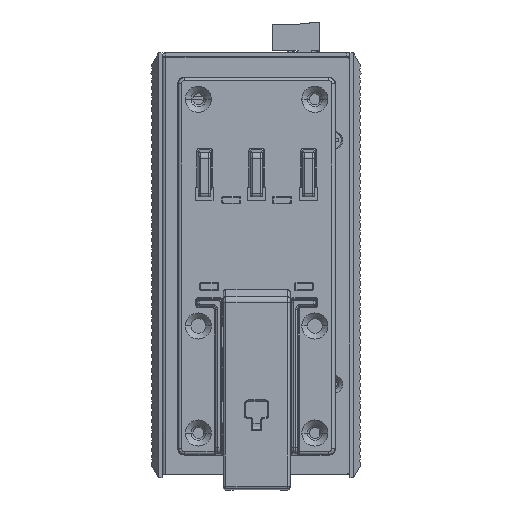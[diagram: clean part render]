
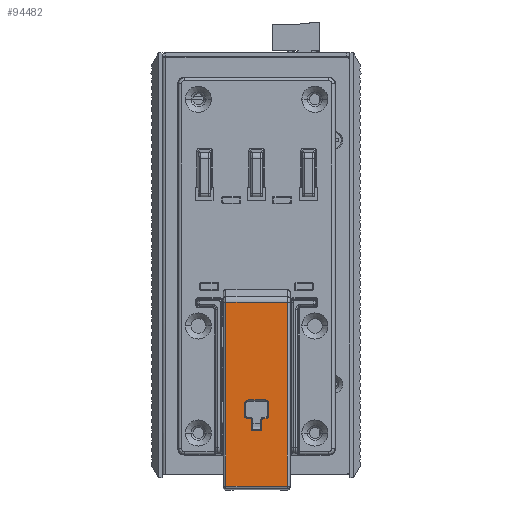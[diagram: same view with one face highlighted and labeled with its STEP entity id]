
A CAD part, left-side view. The second image highlights one B-rep face of the part: STEP entity #94482.
In plain terms, the highlighted planar face has unit normal (-1, 0, 0).
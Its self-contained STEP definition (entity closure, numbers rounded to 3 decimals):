
#88757=DIRECTION('',(0.,-1.,0.));
#88758=VECTOR('',#88757,19.5);
#88759=CARTESIAN_POINT('',(-59.,39.35,-14.857));
#88760=LINE('',#88759,#88758);
#88765=DIRECTION('',(0.,1.,0.));
#88766=VECTOR('',#88765,3.3);
#88767=CARTESIAN_POINT('',(-59.,27.95,
-55.68));
#88768=LINE('',#88767,#88766);
#88769=DIRECTION('',(0.,0.,-1.));
#88770=VECTOR('',#88769,3.354);
#88771=CARTESIAN_POINT('',(-59.,27.95,
-52.325));
#88772=LINE('',#88771,#88770);
#88773=CARTESIAN_POINT('',(-59.,27.325,
-51.7));
#88774=CARTESIAN_POINT('',(-59.,27.412,
-51.7));
#88775=CARTESIAN_POINT('',(-59.,27.572,
-51.734));
#88776=CARTESIAN_POINT('',(-59.,27.778,
-51.872));
#88777=CARTESIAN_POINT('',(-59.,27.916,
-52.078));
#88778=CARTESIAN_POINT('',(-59.,27.95,
-52.238));
#88779=CARTESIAN_POINT('',(-59.,27.95,
-52.325));
#88781=DIRECTION('',(0.,1.,0.));
#88782=VECTOR('',#88781,0.754);
#88783=CARTESIAN_POINT('',(-59.,26.571,
-51.7));
#88784=LINE('',#88783,#88782);
#88785=CARTESIAN_POINT('',(-59.,25.7,
-50.829));
#88786=CARTESIAN_POINT('',(-59.,25.7,
-50.949));
#88787=CARTESIAN_POINT('',(-59.,25.746,
-51.169));
#88788=CARTESIAN_POINT('',(-59.,25.937,
-51.46));
#88789=CARTESIAN_POINT('',(-59.,26.228,
-51.653));
#88790=CARTESIAN_POINT('',(-59.,26.45,
-51.7));
#88791=CARTESIAN_POINT('',(-59.,26.571,
-51.7));
#88793=DIRECTION('',(0.,0.,-1.));
#88794=VECTOR('',#88793,3.559);
#88795=CARTESIAN_POINT('',(-59.,25.7,
-47.27));
#88796=LINE('',#88795,#88794);
#88797=CARTESIAN_POINT('',(-59.,27.07,
-45.9));
#88798=CARTESIAN_POINT('',(-59.,26.879,
-45.9));
#88799=CARTESIAN_POINT('',(-59.,26.53,
-45.973));
#88800=CARTESIAN_POINT('',(-59.,26.073,
-46.277));
#88801=CARTESIAN_POINT('',(-59.,25.772,
-46.735));
#88802=CARTESIAN_POINT('',(-59.,25.7,
-47.081));
#88803=CARTESIAN_POINT('',(-59.,25.7,
-47.27));
#88805=DIRECTION('',(0.,-1.,0.));
#88806=VECTOR('',#88805,5.061);
#88807=CARTESIAN_POINT('',(-59.,32.13,
-45.9));
#88808=LINE('',#88807,#88806);
#88809=CARTESIAN_POINT('',(-59.,33.5,
-47.27));
#88810=CARTESIAN_POINT('',(-59.,33.5,
-47.081));
#88811=CARTESIAN_POINT('',(-59.,33.428,
-46.735));
#88812=CARTESIAN_POINT('',(-59.,33.127,
-46.277));
#88813=CARTESIAN_POINT('',(-59.,32.67,
-45.973));
#88814=CARTESIAN_POINT('',(-59.,32.321,
-45.9));
#88815=CARTESIAN_POINT('',(-59.,32.13,
-45.9));
#88817=DIRECTION('',(0.,0.,1.));
#88818=VECTOR('',#88817,3.559);
#88819=CARTESIAN_POINT('',(-59.,33.5,
-50.829));
#88820=LINE('',#88819,#88818);
#88821=CARTESIAN_POINT('',(-59.,32.629,
-51.7));
#88822=CARTESIAN_POINT('',(-59.,32.749,
-51.7));
#88823=CARTESIAN_POINT('',(-59.,32.969,
-51.654));
#88824=CARTESIAN_POINT('',(-59.,33.26,
-51.463));
#88825=CARTESIAN_POINT('',(-59.,33.453,
-51.172));
#88826=CARTESIAN_POINT('',(-59.,33.5,
-50.95));
#88827=CARTESIAN_POINT('',(-59.,33.5,
-50.829));
#88829=DIRECTION('',(0.,1.,0.));
#88830=VECTOR('',#88829,0.754);
#88831=CARTESIAN_POINT('',(-59.,31.875,
-51.7));
#88832=LINE('',#88831,#88830);
#88833=CARTESIAN_POINT('',(-59.,31.25,
-52.325));
#88834=CARTESIAN_POINT('',(-59.,31.25,
-52.238));
#88835=CARTESIAN_POINT('',(-59.,31.284,
-52.078));
#88836=CARTESIAN_POINT('',(-59.,31.421,
-51.872));
#88837=CARTESIAN_POINT('',(-59.,31.627,
-51.735));
#88838=CARTESIAN_POINT('',(-59.,31.787,
-51.7));
#88839=CARTESIAN_POINT('',(-59.,31.875,
-51.7));
#88841=DIRECTION('',(0.,0.,1.));
#88842=VECTOR('',#88841,3.354);
#88843=CARTESIAN_POINT('',(-59.,31.25,
-55.68));
#88844=LINE('',#88843,#88842);
#88849=DIRECTION('',(0.,0.,-1.));
#88850=VECTOR('',#88849,58.422);
#88851=CARTESIAN_POINT('',(-59.,19.85,-14.857));
#88852=LINE('',#88851,#88850);
#88868=DIRECTION('',(0.,1.,0.));
#88869=VECTOR('',#88868,19.5);
#88870=CARTESIAN_POINT('',(-59.,19.85,-73.279));
#88871=LINE('',#88870,#88869);
#88997=DIRECTION('',(0.,0.,1.));
#88998=VECTOR('',#88997,58.422);
#88999=CARTESIAN_POINT('',(-59.,39.35,-73.279));
#89000=LINE('',#88999,#88998);
#90606=CARTESIAN_POINT('',(-59.,19.85,-14.857));
#90607=VERTEX_POINT('',#90606);
#90614=CARTESIAN_POINT('',(-59.,19.85,-73.279));
#90615=VERTEX_POINT('',#90614);
#90624=CARTESIAN_POINT('',(-59.,39.35,-14.857));
#90625=VERTEX_POINT('',#90624);
#90630=CARTESIAN_POINT('',(-59.,39.35,-73.279));
#90631=VERTEX_POINT('',#90630);
#90646=CARTESIAN_POINT('',(-59.,27.95,
-55.68));
#90647=CARTESIAN_POINT('',(-59.,31.25,
-55.68));
#90648=VERTEX_POINT('',#90646);
#90649=VERTEX_POINT('',#90647);
#90660=CARTESIAN_POINT('',(-59.,31.25,
-52.325));
#90661=VERTEX_POINT('',#90660);
#90662=CARTESIAN_POINT('',(-59.,27.95,
-52.325));
#90663=VERTEX_POINT('',#90662);
#90678=VERTEX_POINT('',#88839);
#90679=VERTEX_POINT('',#88773);
#90695=CARTESIAN_POINT('',(-59.,32.629,
-51.7));
#90696=VERTEX_POINT('',#90695);
#90699=CARTESIAN_POINT('',(-59.,26.571,
-51.7));
#90700=VERTEX_POINT('',#90699);
#90707=VERTEX_POINT('',#88827);
#90710=VERTEX_POINT('',#88785);
#90718=CARTESIAN_POINT('',(-59.,33.5,
-47.27));
#90719=VERTEX_POINT('',#90718);
#90722=CARTESIAN_POINT('',(-59.,25.7,
-47.27));
#90723=VERTEX_POINT('',#90722);
#90735=VERTEX_POINT('',#88815);
#90740=VERTEX_POINT('',#88797);
#94438=CARTESIAN_POINT('',(-59.,18.95,-74.5));
#94439=DIRECTION('',(-1.,0.,0.));
#94440=DIRECTION('',(0.,0.,1.));
#94441=AXIS2_PLACEMENT_3D('',#94438,#94439,#94440);
#94442=PLANE('',#94441);
#94444=ORIENTED_EDGE('',*,*,#94443,.T.);
#94446=ORIENTED_EDGE('',*,*,#94445,.T.);
#94448=ORIENTED_EDGE('',*,*,#94447,.T.);
#94449=ORIENTED_EDGE('',*,*,#94428,.T.);
#94450=EDGE_LOOP('',(#94444,#94446,#94448,#94449));
#94451=FACE_OUTER_BOUND('',#94450,.F.);
#94453=ORIENTED_EDGE('',*,*,#94452,.F.);
#94455=ORIENTED_EDGE('',*,*,#94454,.F.);
#94457=ORIENTED_EDGE('',*,*,#94456,.F.);
#94459=ORIENTED_EDGE('',*,*,#94458,.F.);
#94461=ORIENTED_EDGE('',*,*,#94460,.F.);
#94463=ORIENTED_EDGE('',*,*,#94462,.F.);
#94465=ORIENTED_EDGE('',*,*,#94464,.F.);
#94467=ORIENTED_EDGE('',*,*,#94466,.F.);
#94469=ORIENTED_EDGE('',*,*,#94468,.F.);
#94471=ORIENTED_EDGE('',*,*,#94470,.F.);
#94473=ORIENTED_EDGE('',*,*,#94472,.F.);
#94475=ORIENTED_EDGE('',*,*,#94474,.F.);
#94477=ORIENTED_EDGE('',*,*,#94476,.F.);
#94479=ORIENTED_EDGE('',*,*,#94478,.F.);
#94480=EDGE_LOOP('',(#94453,#94455,#94457,#94459,#94461,#94463,#94465,#94467,
#94469,#94471,#94473,#94475,#94477,#94479));
#94481=FACE_BOUND('',#94480,.F.);
#94482=ADVANCED_FACE('',(#94451,#94481),#94442,.T.);
#88780=B_SPLINE_CURVE_WITH_KNOTS('',3,(#88773,#88774,#88775,#88776,#88777,
#88778,#88779),.UNSPECIFIED.,.F.,.F.,(4,1,1,1,4),(0.,0.25,0.5,0.75,
1.),.UNSPECIFIED.);
#88792=B_SPLINE_CURVE_WITH_KNOTS('',3,(#88785,#88786,#88787,#88788,#88789,
#88790,#88791),.UNSPECIFIED.,.F.,.F.,(4,1,1,1,4),(0.,0.25,0.5,0.75,
1.),.UNSPECIFIED.);
#88804=B_SPLINE_CURVE_WITH_KNOTS('',3,(#88797,#88798,#88799,#88800,#88801,
#88802,#88803),.UNSPECIFIED.,.F.,.F.,(4,1,1,1,4),(0.,0.25,0.5,0.75,
1.),.UNSPECIFIED.);
#88816=B_SPLINE_CURVE_WITH_KNOTS('',3,(#88809,#88810,#88811,#88812,#88813,
#88814,#88815),.UNSPECIFIED.,.F.,.F.,(4,1,1,1,4),(0.,0.25,0.5,0.75,
1.),.UNSPECIFIED.);
#88828=B_SPLINE_CURVE_WITH_KNOTS('',3,(#88821,#88822,#88823,#88824,#88825,
#88826,#88827),.UNSPECIFIED.,.F.,.F.,(4,1,1,1,4),(0.,0.25,0.5,0.75,
1.),.UNSPECIFIED.);
#88840=B_SPLINE_CURVE_WITH_KNOTS('',3,(#88833,#88834,#88835,#88836,#88837,
#88838,#88839),.UNSPECIFIED.,.F.,.F.,(4,1,1,1,4),(0.,0.25,0.5,0.75,
1.),.UNSPECIFIED.);
#94428=EDGE_CURVE('',#90625,#90607,#88760,.T.);
#94443=EDGE_CURVE('',#90607,#90615,#88852,.T.);
#94445=EDGE_CURVE('',#90615,#90631,#88871,.T.);
#94447=EDGE_CURVE('',#90631,#90625,#89000,.T.);
#94452=EDGE_CURVE('',#90648,#90649,#88768,.T.);
#94454=EDGE_CURVE('',#90663,#90648,#88772,.T.);
#94456=EDGE_CURVE('',#90679,#90663,#88780,.T.);
#94458=EDGE_CURVE('',#90700,#90679,#88784,.T.);
#94460=EDGE_CURVE('',#90710,#90700,#88792,.T.);
#94462=EDGE_CURVE('',#90723,#90710,#88796,.T.);
#94464=EDGE_CURVE('',#90740,#90723,#88804,.T.);
#94466=EDGE_CURVE('',#90735,#90740,#88808,.T.);
#94468=EDGE_CURVE('',#90719,#90735,#88816,.T.);
#94470=EDGE_CURVE('',#90707,#90719,#88820,.T.);
#94472=EDGE_CURVE('',#90696,#90707,#88828,.T.);
#94474=EDGE_CURVE('',#90678,#90696,#88832,.T.);
#94476=EDGE_CURVE('',#90661,#90678,#88840,.T.);
#94478=EDGE_CURVE('',#90649,#90661,#88844,.T.);
